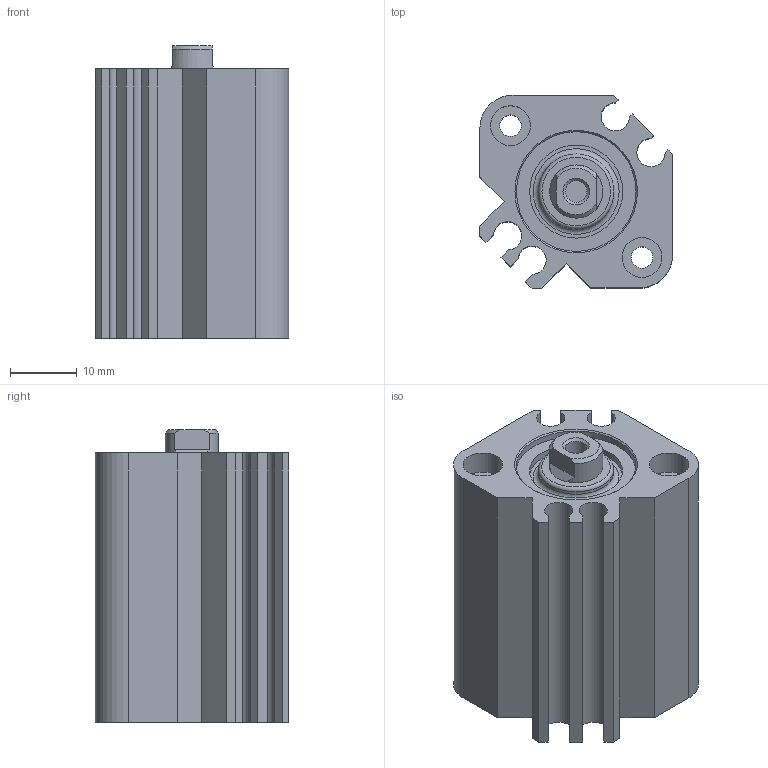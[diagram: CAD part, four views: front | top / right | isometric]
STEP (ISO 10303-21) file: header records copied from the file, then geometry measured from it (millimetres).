
FILE_DESCRIPTION( ( 'STEP AP214' ), '1' );
FILE_NAME( 'C:/Users/emc02044/Desktop/SQN SQN big size/SQN16X10-S.stp', '2026-07-28T12:27:36', ( 'License CC BY-ND 4.0' ), ( 'CADENAS' ), ' ', 'PARTsolutions', ' ' );
FILE_SCHEMA( ( 'AUTOMOTIVE_DESIGN { 1 0 10303 214 1 1 1 1 }' ) );
Length unit declared in the file: millimetre
Products named in the file (3): SQN16X10-S; _SQ16X10-S(0) ()_body; _SQ16X10-S(rod-0)
Assembly tree (2 placements, depth 2):
  SQN16X10-S
    _SQ16X10-S(0) ()_body
    _SQ16X10-S(rod-0)
Bounding box: 29.07 x 29.07 x 44 mm (x, y, z)
Volume: 24277.1 mm3; surface area: 12127.2 mm2
Topology: 2 solids, 2 shells, 85 faces, 185 edges, 121 vertices
Faces by surface type: plane 49, cylinder 26, cone 8, torus 2
Full cylindrical faces by diameter (mm): 3.242 x5, 3.4 x2, 4.134 x2, 6 x4, 8 x2, 11.3 x1, 14 x1, 16 x2, 18 x1
Entity records: 2916 total; most frequent: DIRECTION 392, CARTESIAN_POINT 374, ORIENTED_EDGE 310, EDGE_CURVE 155, AXIS2_PLACEMENT_3D 153, EDGE_LOOP 134, VERTEX_POINT 119, FACE_OUTER_BOUND 107
